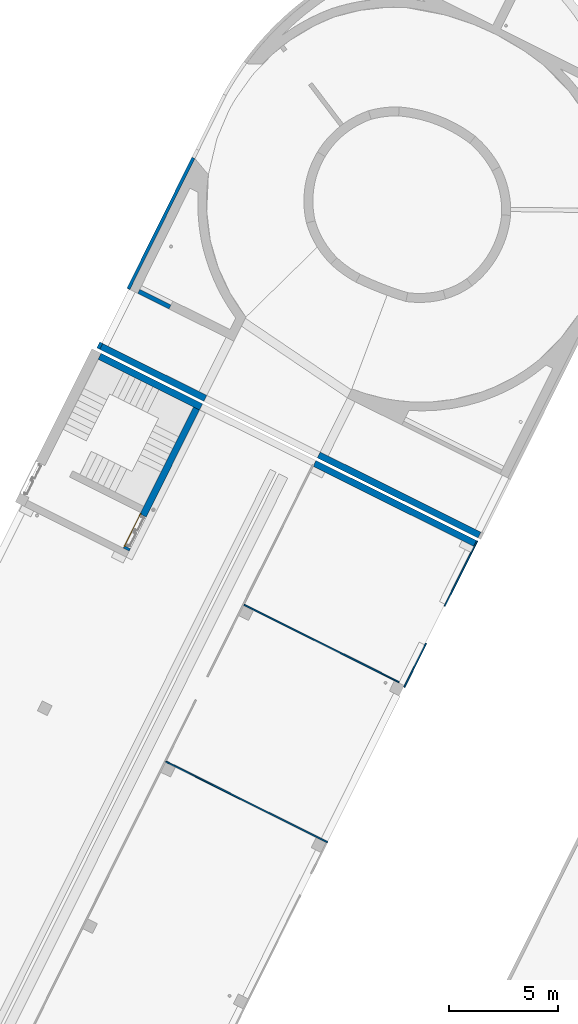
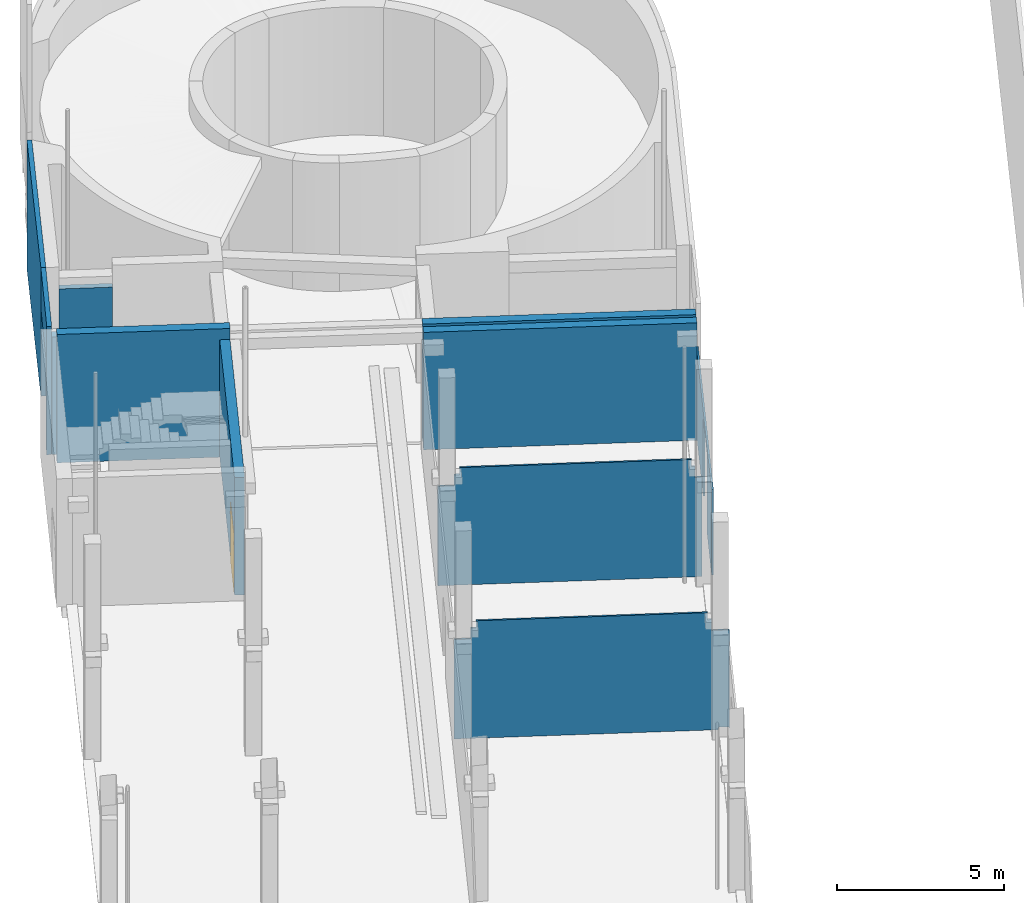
# One storey, part 17 of 91: 11 walls, 1 door, 9 openings.
"""IFC2X3 building model written with IfcOpenShell, lengths in metres."""

import ifcopenshell
import ifcopenshell.guid

model = None  # the IFC model being written
_history = None  # IfcOwnerHistory: only IFC2X3 demands one
_inside = {}  # id of a spatial element -> (the spatial element, [elements in it])
_under = {}  # id of a project, library or spatial element -> (it, [spatial elements below it])
_declared = {}  # id of a project -> (the project, [libraries it declares])
_typed = {}  # id of a type object -> (the type object, [elements of that type])
_made_of = {}  # id of a material, layer set ... -> (it, [elements and type objects made of it])


def new_model(schema):
    """Start an empty IFC model of exactly this schema.

    Asked for "IFC4X3", IfcOpenShell would pick the latest addendum, in which some entities
    have other attributes; the version numbers below select the first issue.
    IFC2X3 requires an IfcOwnerHistory on every rooted entity: one is made here for all.
    """
    global model, _history
    if schema == "IFC4X3":
        model = ifcopenshell.file(schema_version=(4, 3, 0, 0))
    else:
        model = ifcopenshell.file(schema=schema)
    _inside.clear()
    _under.clear()
    _declared.clear()
    _typed.clear()
    _made_of.clear()
    _history = None
    if model.schema == "IFC2X3":
        org = make("IfcOrganization", Name="unknown")
        user = make(
            "IfcPersonAndOrganization",
            ThePerson=make("IfcPerson", FamilyName="unknown"),
            TheOrganization=org,
        )
        app = make(
            "IfcApplication",
            ApplicationDeveloper=org,
            Version="unknown",
            ApplicationFullName="unknown",
            ApplicationIdentifier="unknown",
        )
        _history = make(
            "IfcOwnerHistory",
            OwningUser=user,
            OwningApplication=app,
            ChangeAction="ADDED",
            CreationDate=0,
        )
    return model


def make(cls, **values):
    """One entity of the class cls with the attributes given. An attribute that is None is left unset."""
    return model.create_entity(
        cls, **{name: value for name, value in values.items() if value is not None}
    )


def entity(cls, *values):
    """Any entity or typed value of the class cls, its attributes in the order of the schema. None: left unset."""
    e = model.create_entity(cls)
    for i, value in enumerate(values):
        if value is not None:
            e[i] = value
    return e


def rooted(cls, **values):
    """An entity with a GlobalId (a new one), such as an element, a storey or a relation."""
    return make(cls, GlobalId=ifcopenshell.guid.new(), OwnerHistory=_history, **values)


def si_unit(unit_type, name, prefix=None):
    """IfcSIUnit, for example si_unit("LENGTHUNIT", "METRE", prefix="MILLI")."""
    return make("IfcSIUnit", UnitType=unit_type, Prefix=prefix, Name=name)


def converted_unit(unit_type, name, factor, base, dimensions=None, offset=None):
    """IfcConversionBasedUnit, such as the inch: factor (a typed value) times the base unit."""
    return make(
        "IfcConversionBasedUnit"
        if offset is None
        else "IfcConversionBasedUnitWithOffset",
        ConversionOffset=offset,
        Dimensions=None
        if dimensions is None
        else entity("IfcDimensionalExponents", *dimensions),
        UnitType=unit_type,
        Name=name,
        ConversionFactor=make(
            "IfcMeasureWithUnit", ValueComponent=factor, UnitComponent=base
        ),
    )


def derived_unit(unit_type, elements):
    """IfcDerivedUnit: a product of units, each with its exponent."""
    return make(
        "IfcDerivedUnit",
        Elements=[
            make("IfcDerivedUnitElement", Unit=unit, Exponent=power)
            for unit, power in elements
        ],
        UnitType=unit_type,
    )


def assignment(units):
    """IfcUnitAssignment: the units of a project."""
    return None if units is None else make("IfcUnitAssignment", Units=units)


def point(xyz):
    """IfcCartesianPoint."""
    return None if xyz is None else make("IfcCartesianPoint", Coordinates=xyz)


def direction(xyz):
    """IfcDirection."""
    return None if xyz is None else make("IfcDirection", DirectionRatios=xyz)


def frame(location, z_axis=None, x_axis=None):
    """IfcAxis2Placement3D, a coordinate frame: its origin and axes. An axis left out is left unset."""
    return make(
        "IfcAxis2Placement3D",
        Location=point(location),
        Axis=direction(z_axis),
        RefDirection=direction(x_axis),
    )


def frame_2d(location, x_axis=None):
    """IfcAxis2Placement2D, a coordinate frame in the plane: its origin and x axis."""
    return make(
        "IfcAxis2Placement2D", Location=point(location), RefDirection=direction(x_axis)
    )


def origin():
    """The frame at (0, 0, 0) with its axes left unset."""
    return frame((0.0, 0.0, 0.0))


def origin_2d_with_axis():
    """The frame at (0, 0) in the plane with the x axis (1, 0) written out."""
    return frame_2d((0.0, 0.0), x_axis=(1.0, 0.0))


def place(relative_to, where):
    """IfcLocalPlacement: puts the frame where relative to a parent placement (None: the world)."""
    return make(
        "IfcLocalPlacement", PlacementRelTo=relative_to, RelativePlacement=where
    )


def context(
    kind, dimensions, precision=None, world=None, true_north=None, identifier=None
):
    """IfcGeometricRepresentationContext, for example the 3D "Model" context."""
    return make(
        "IfcGeometricRepresentationContext",
        ContextIdentifier=identifier,
        ContextType=kind,
        CoordinateSpaceDimension=dimensions,
        Precision=precision,
        WorldCoordinateSystem=world,
        TrueNorth=true_north,
    )


def subcontext(parent, identifier, kind, view, scale=None):
    """IfcGeometricRepresentationSubContext, for example "Body" below "Model"."""
    return make(
        "IfcGeometricRepresentationSubContext",
        ContextIdentifier=identifier,
        ContextType=kind,
        ParentContext=parent,
        TargetScale=scale,
        TargetView=view,
    )


def project(units=None, contexts=None):
    """IfcProject with its units and contexts."""
    return rooted(
        "IfcProject",
        Name="project",
        RepresentationContexts=contexts,
        UnitsInContext=assignment(units),
    )


def spatial(cls, under=None, at=None, **own):
    """A site, building, storey or space (cls), placed at a placement, below another one or the project."""
    s = rooted(cls, ObjectPlacement=at, **own)
    if under is not None:
        _under.setdefault(under.id(), (under, []))[1].append(s)
    return s


def polyline(points):
    """IfcPolyline through the points."""
    return make("IfcPolyline", Points=[point(p) for p in points])


def profile(cls, at=None, kind="AREA", **sizes):
    """A parametric profile (cls). Its sizes go by their IFC names, for example OverallWidth=200.0."""
    return make(cls, ProfileType=kind, Position=at, **sizes)


def rectangle(**sizes):
    """IfcRectangleProfileDef."""
    return profile("IfcRectangleProfileDef", **sizes)


def outline(outer, holes=None, kind="AREA"):
    """IfcArbitraryClosedProfileDef: a profile drawn as a closed curve; with holes, ...WithVoids."""
    if holes is None:
        return make("IfcArbitraryClosedProfileDef", ProfileType=kind, OuterCurve=outer)
    return make(
        "IfcArbitraryProfileDefWithVoids",
        ProfileType=kind,
        OuterCurve=outer,
        InnerCurves=holes,
    )


def extrude(swept, where, along, depth):
    """IfcExtrudedAreaSolid: the profile swept, set in the frame where, extruded along a direction by depth."""
    return make(
        "IfcExtrudedAreaSolid",
        SweptArea=swept,
        Position=where,
        ExtrudedDirection=direction(along),
        Depth=depth,
    )


def clip(a, b, op="DIFFERENCE"):
    """IfcBooleanClippingResult: the solid a cut by the half space b."""
    return make(
        "IfcBooleanClippingResult", Operator=op, FirstOperand=a, SecondOperand=b
    )


def halfspace(plane, agree):
    """IfcHalfSpaceSolid: all space on one side of the plane z = 0 of the frame plane."""
    return make(
        "IfcHalfSpaceSolid",
        BaseSurface=make("IfcPlane", Position=plane),
        AgreementFlag=agree,
    )


def bounded_halfspace(plane, agree, where, boundary):
    """IfcPolygonalBoundedHalfSpace: a half space limited to a polygon's prism."""
    return make(
        "IfcPolygonalBoundedHalfSpace",
        BaseSurface=make("IfcPlane", Position=plane),
        AgreementFlag=agree,
        Position=where,
        PolygonalBoundary=boundary,
    )


def faces_of(points, faces, orient=None, outer=None):
    """IfcFace entities. A face is a list of loops; a loop is a list of indices into points, from 0.

    orient and outer hold one flag for each loop. By default every Orientation is true, the
    first loop of a face is its IfcFaceOuterBound and the others are IfcFaceBound.
    """
    made = []
    for i, loops in enumerate(faces):
        bounds = []
        for j, loop in enumerate(loops):
            is_outer = j == 0 if outer is None else outer[i][j]
            bounds.append(
                make(
                    "IfcFaceOuterBound" if is_outer else "IfcFaceBound",
                    Bound=make("IfcPolyLoop", Polygon=[points[k] for k in loop]),
                    Orientation=True if orient is None else orient[i][j],
                )
            )
        made.append(make("IfcFace", Bounds=bounds))
    return made


def faceted_brep(points, faces, orient=None, outer=None, voids=None):
    """IfcFacetedBrep: a solid bounded by flat faces; with voids (closed shells), ...WithVoids."""
    shared = [point(p) for p in points]
    hull = make("IfcClosedShell", CfsFaces=faces_of(shared, faces, orient, outer))
    if voids is None:
        return make("IfcFacetedBrep", Outer=hull)
    return make(
        "IfcFacetedBrepWithVoids",
        Outer=hull,
        Voids=[
            make(cls, CfsFaces=faces_of(shared, fs, o, b)) for cls, fs, o, b in voids
        ],
    )


def shape(context_of_items, identifier, shape_type, items):
    """IfcShapeRepresentation: the items that make up one representation, for example the "Body"."""
    return make(
        "IfcShapeRepresentation",
        ContextOfItems=context_of_items,
        RepresentationIdentifier=identifier,
        RepresentationType=shape_type,
        Items=items,
    )


def source(mapping_origin, context_of_items, identifier, shape_type, items):
    """IfcRepresentationMap: a shape defined once, which mapped items show again and again."""
    return make(
        "IfcRepresentationMap",
        MappingOrigin=mapping_origin,
        MappedRepresentation=shape(context_of_items, identifier, shape_type, items),
    )


def transform(
    local_origin,
    x_axis=None,
    y_axis=None,
    z_axis=None,
    scale=None,
    scale2=None,
    scale3=None,
    uniform=True,
):
    """IfcCartesianTransformationOperator3D, or its non-uniform kind. x_axis, y_axis, z_axis: its Axis1, 2, 3."""
    if uniform:
        return make(
            "IfcCartesianTransformationOperator3D",
            Axis1=direction(x_axis),
            Axis2=direction(y_axis),
            LocalOrigin=point(local_origin),
            Scale=scale,
            Axis3=direction(z_axis),
        )
    return make(
        "IfcCartesianTransformationOperator3DnonUniform",
        Axis1=direction(x_axis),
        Axis2=direction(y_axis),
        LocalOrigin=point(local_origin),
        Scale=scale,
        Axis3=direction(z_axis),
        Scale2=scale2,
        Scale3=scale3,
    )


def mapped(mapping_source, mapping_target):
    """IfcMappedItem: shows the shape of a source again, moved by a transform."""
    return make(
        "IfcMappedItem", MappingSource=mapping_source, MappingTarget=mapping_target
    )


def material(Name=None, Category=None):
    """IfcMaterial."""
    return make("IfcMaterial", Name=Name, Category=Category)


def layer(
    of_material, thickness, ventilated=None, Name=None, Category=None, Priority=None
):
    """IfcMaterialLayer: one layer of a wall or slab, of a material (None: an air gap)."""
    return make(
        "IfcMaterialLayer",
        Material=of_material,
        LayerThickness=thickness,
        IsVentilated=ventilated,
        Name=Name,
        Category=Category,
        Priority=Priority,
    )


def layer_set(layers, Name=None):
    """IfcMaterialLayerSet."""
    return make("IfcMaterialLayerSet", MaterialLayers=layers, LayerSetName=Name)


def layer_usage(for_layer_set, set_direction, sense, offset, extent=None):
    """IfcMaterialLayerSetUsage: how a layer set lies in its element."""
    return make(
        "IfcMaterialLayerSetUsage",
        ForLayerSet=for_layer_set,
        LayerSetDirection=set_direction,
        DirectionSense=sense,
        OffsetFromReferenceLine=offset,
        ReferenceExtent=extent,
    )


def made_of(thing, what):
    """Note that an element or type object is made of a material, layer set ...; save() writes the relation."""
    if what is not None:
        _made_of.setdefault(what.id(), (what, []))[1].append(thing)
    return thing


def type_object(cls, material=None, **own):
    """A type object (cls), such as IfcWallType, which elements share."""
    return made_of(rooted(cls, **own), material)


def type_shapes(of_type, sources):
    """Give a type object the sources (RepresentationMaps) that its elements show as mapped items."""
    of_type.RepresentationMaps = sources


def element(
    cls,
    number,
    at=None,
    inside=None,
    cuts=None,
    type_object=None,
    material=None,
    context=None,
    identifier="Body",
    shape_type=None,
    held_by="IfcProductDefinitionShape",
    body=None,
    shapes=None,
    **own,
):
    """One element of the class cls, such as IfcWall. Its Tag is "e" and its number.

    at: its placement. inside: the storey or other place that contains it. cuts: it is an
    opening in that element (IfcRelVoidsElement). A single representation is given by context,
    identifier, shape_type and body (its items); several are given by shapes. held_by: the class
    of the entity that holds the representations. save() writes the other relations.
    """
    e = rooted(cls, Tag="e%d" % number, ObjectPlacement=at, **own)
    if body is not None:
        shapes = [shape(context, identifier, shape_type, body)]
    if shapes is not None:
        e.Representation = make(held_by, Representations=shapes)
    if inside is not None:
        _inside.setdefault(inside.id(), (inside, []))[1].append(e)
    if cuts is not None:
        rooted(
            "IfcRelVoidsElement", RelatingBuildingElement=cuts, RelatedOpeningElement=e
        )
    if type_object is not None:
        _typed.setdefault(type_object.id(), (type_object, []))[1].append(e)
    return made_of(e, material)


def fill(opening, filler):
    """IfcRelFillsElement: the door or window that sits in an opening."""
    return rooted(
        "IfcRelFillsElement",
        RelatingOpeningElement=opening,
        RelatedBuildingElement=filler,
    )


def aggregate(whole, parts):
    """IfcRelAggregates: a whole, such as a stair, and the parts it consists of."""
    return rooted("IfcRelAggregates", RelatingObject=whole, RelatedObjects=parts)


def save(model, path):
    """Write the relations noted so far, then the file.

    IfcRelAggregates (storeys below a building ...), IfcRelContainedInSpatialStructure (elements
    in a storey), IfcRelDefinesByType, IfcRelAssociatesMaterial and IfcRelDeclares: one each for
    every whole, place, type object, material and project.
    """
    for whole, parts in _under.values():
        aggregate(whole, parts)
    for where, things in _inside.values():
        rooted(
            "IfcRelContainedInSpatialStructure",
            RelatedElements=things,
            RelatingStructure=where,
        )
    for kind, things in _typed.values():
        rooted("IfcRelDefinesByType", RelatedObjects=things, RelatingType=kind)
    for what, things in _made_of.values():
        rooted("IfcRelAssociatesMaterial", RelatedObjects=things, RelatingMaterial=what)
    for by, libraries in _declared.values():
        rooted("IfcRelDeclares", RelatingContext=by, RelatedDefinitions=libraries)
    model.write(path)


model = new_model("IFC2X3")

# Units and contexts
model_context = context("Model", 3, precision=1e-05, world=origin(), true_north=direction((0.894925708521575, 0.446215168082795)))
context_of_model = context(None, 3, precision=1e-05, world=origin(), true_north=direction((0.894925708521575, 0.446215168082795)))
body_context = subcontext(model_context, "Body", "Model", "MODEL_VIEW")
ifc_project = project(units=[si_unit("LENGTHUNIT", "METRE"), si_unit("AREAUNIT", "SQUARE_METRE"), si_unit("VOLUMEUNIT", "CUBIC_METRE"), converted_unit("PLANEANGLEUNIT", "DEGREE", entity("IfcRatioMeasure", 0.0174532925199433), si_unit("PLANEANGLEUNIT", "RADIAN"), dimensions=[0, 0, 0, 0, 0, 0, 0]), si_unit("MASSUNIT", "GRAM", prefix="KILO"), si_unit("TIMEUNIT", "SECOND"), si_unit("FREQUENCYUNIT", "HERTZ"), si_unit("THERMODYNAMICTEMPERATUREUNIT", "DEGREE_CELSIUS"), derived_unit("THERMALTRANSMITTANCEUNIT", [(si_unit("MASSUNIT", "GRAM", prefix="KILO"), 1), (si_unit("THERMODYNAMICTEMPERATUREUNIT", "KELVIN"), -1), (si_unit("TIMEUNIT", "SECOND"), -3)]), derived_unit("VOLUMETRICFLOWRATEUNIT", [(si_unit("LENGTHUNIT", "METRE"), 3), (si_unit("TIMEUNIT", "SECOND"), -1)]), si_unit("ELECTRICCURRENTUNIT", "AMPERE"), si_unit("ELECTRICVOLTAGEUNIT", "VOLT"), si_unit("POWERUNIT", "WATT"), si_unit("FORCEUNIT", "NEWTON", prefix="KILO"), si_unit("ILLUMINANCEUNIT", "LUX"), si_unit("LUMINOUSFLUXUNIT", "LUMEN"), si_unit("LUMINOUSINTENSITYUNIT", "CANDELA"), si_unit("PRESSUREUNIT", "PASCAL")], contexts=[model_context, context_of_model])

# Site, building, storey
site_placement = place(None, frame((218.228324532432, 584.720189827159, 0.0), z_axis=(0.0, 0.0, 1.0), x_axis=(0.446215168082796, 0.894925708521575, 0.0)))
site = spatial("IfcSite", under=ifc_project, at=site_placement, Name="Default", CompositionType="ELEMENT")
building_placement = place(site_placement, origin())
building = spatial("IfcBuilding", under=site, at=building_placement, CompositionType="ELEMENT")
storey_placement = place(building_placement, origin())
storey = spatial("IfcBuildingStorey", under=building, at=storey_placement, Name="0 - Piano Terra", CompositionType="ELEMENT", Elevation=0.0)

# Wall
ifc_material_1 = material(Name="Default - Calcestruzzo")
ifc_layer_1 = layer(ifc_material_1, 0.3)
ifc_material_2 = material(Name="Intonaco - Bianco")
ifc_layer_2 = layer(ifc_material_2, 0.01)
ifc_layer_set_1 = layer_set([ifc_layer_1, ifc_layer_2], Name="Muro di base:Setto CA rivestito int - 31 cm")
ifc_layer_usage_1 = layer_usage(ifc_layer_set_1, "AXIS2", "NEGATIVE", 0.155)
wall_type_1 = type_object("IfcWallType", Name="Muro di base:Setto CA rivestito int - 31 cm", PredefinedType="STANDARD", material=ifc_layer_set_1)
wall_1_placement = place(storey_placement, frame((58.6809369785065, 5.9889210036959, 0.0), z_axis=(0.0, 0.0, 1.0), x_axis=(0.0, -1.0, 0.0)))
element("IfcWallStandardCase", 1, at=wall_1_placement, inside=storey, type_object=wall_type_1, material=ifc_layer_usage_1, Name="Muro di base:Setto CA rivestito int - 31 cm", ObjectType="Muro di base:Setto CA rivestito int - 31 cm", context=body_context, shape_type="Clipping", body=[
    clip(extrude(rectangle(XDim=5.19000000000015, YDim=0.309999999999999, at=frame_2d((2.59500000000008, 0.0), x_axis=(-1.0, 0.0))), origin(), (0.0, 0.0, 1.0), 4.69), bounded_halfspace(frame((0.0, -0.154999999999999, 4.69), z_axis=(0.0, 0.0, -1.0), x_axis=(0.0, 1.0, 0.0)), True, frame((0.0, -0.154999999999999, 4.69)), polyline([(0.0, 0.0), (5.19000000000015, 0.0), (5.19000000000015, 0.309999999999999), (0.0, 0.309999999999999), (0.0, 0.0)]))),
])

# Wall, opening, door
ifc_layer_usage_2 = layer_usage(ifc_layer_set_1, "AXIS2", "NEGATIVE", 0.155)
wall_2_placement = place(storey_placement, frame((58.5259369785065, 0.953921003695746, 0.0), z_axis=(0.0, 0.0, 1.0), x_axis=(-1.0, 0.0, 0.0)))
wall_2 = element("IfcWallStandardCase", 2, at=wall_2_placement, inside=storey, type_object=wall_type_1, material=ifc_layer_usage_2, Name="Muro di base:Setto CA rivestito int - 31 cm", ObjectType="Muro di base:Setto CA rivestito int - 31 cm", context=body_context, shape_type="SweptSolid", body=[
    extrude(rectangle(XDim=7.20999999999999, YDim=0.31, at=frame_2d((3.605, 0.0), x_axis=(-1.0, 0.0))), origin(), (0.0, 0.0, 1.0), 4.29),
])
opening_1_placement = place(wall_2_placement, frame((7.1299999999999, 0.455000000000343, 0.0), z_axis=(0.0, 0.0, 1.0), x_axis=(-1.0, 0.0, 0.0)))
opening_1 = element("IfcOpeningElement", 3, at=opening_1_placement, cuts=wall_2, Name="Muro di base:Setto CA rivestito int - 31 cm", ObjectType="Opening", context=body_context, shape_type="Brep", body=[
    faceted_brep([(1.65999999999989, 0.0, 2.11000000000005), (1.65999999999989, 0.560000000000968, 2.11000000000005), (0.0399999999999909, 0.560000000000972, 2.11000000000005), (0.0399999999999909, 0.0, 2.11000000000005), (1.65999999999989, 0.91000000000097, 0.0), (1.65999999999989, 0.610000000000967, 0.0), (1.69999999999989, 0.610000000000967, 0.0), (1.69999999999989, 0.560000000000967, 0.0), (1.65999999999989, 0.560000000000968, 0.0), (1.65999999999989, 0.0, 0.0), (0.0399999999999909, 0.0, 0.0), (0.0399999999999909, 0.560000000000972, 0.0), (0.0, 0.560000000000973, 0.0), (0.0, 0.610000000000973, 0.0), (0.0399999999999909, 0.610000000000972, 0.0), (0.0399999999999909, 0.91000000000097, 0.0), (1.65999999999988, 0.91000000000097, 2.11000000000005), (0.0399999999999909, 0.91000000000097, 2.11000000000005), (1.65999999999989, 0.610000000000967, 2.11000000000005), (0.0, 0.610000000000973, 2.15000000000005), (1.69999999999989, 0.610000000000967, 2.15000000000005), (0.0399999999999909, 0.610000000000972, 2.11000000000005), (1.69999999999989, 0.560000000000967, 2.15000000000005), (0.0, 0.560000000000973, 2.15000000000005)], [[[0, 1, 2, 3]], [[4, 5, 6, 7, 8, 9, 10, 11, 12, 13, 14, 15]], [[16, 4, 15, 17]], [[3, 2, 11, 10]], [[3, 10, 9, 0]], [[16, 18, 5, 4]], [[13, 19, 20, 6, 5, 18, 21, 14]], [[11, 2, 1, 8, 7, 22, 23, 12]], [[12, 23, 19, 13]], [[19, 23, 22, 20]], [[20, 22, 7, 6]], [[9, 8, 1, 0]], [[15, 14, 21, 17]], [[17, 21, 18, 16]]]),
])
ifc_material_3 = material(Name="Alluminio")
door_style = type_object("IfcDoorStyle", Name="180x210", ConstructionType="NOTDEFINED", OperationType="DOUBLE_DOOR_SINGLE_SWING", ParameterTakesPrecedence=False, Sizeable=False, material=ifc_material_3)
shared_shape = source(origin(), body_context, "Body", "Brep", [
    faceted_brep([(0.0499999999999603, 0.620000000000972, 0.0), (0.0499999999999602, 0.580000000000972, 0.0), (0.0649999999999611, 0.580000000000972, 0.0), (0.0649999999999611, 0.560000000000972, 0.0), (0.0, 0.560000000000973, 0.0), (0.0, 0.620000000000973, 0.0), (0.0499999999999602, 0.620000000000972, 2.10000000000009), (0.0499999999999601, 0.580000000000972, 2.10000000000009), (1.64999999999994, 0.580000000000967, 2.10000000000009), (1.64999999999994, 0.580000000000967, 0.0), (1.63499999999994, 0.580000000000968, 0.0), (1.63499999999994, 0.580000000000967, 2.08500000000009), (0.0649999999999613, 0.580000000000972, 2.08500000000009), (0.0649999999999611, 0.560000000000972, 2.08500000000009), (1.63499999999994, 0.560000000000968, 2.08500000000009), (1.63499999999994, 0.560000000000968, 0.0), (1.6999999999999, 0.560000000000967, 0.0), (1.6999999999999, 0.560000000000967, 2.15000000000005), (0.0, 0.560000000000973, 2.15000000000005), (0.0, 0.620000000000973, 2.15000000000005), (1.6999999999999, 0.620000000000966, 2.15000000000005), (1.6999999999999, 0.620000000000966, 0.0), (1.64999999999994, 0.620000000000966, 0.0), (1.64999999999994, 0.620000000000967, 2.10000000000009)], [[[0, 1, 2, 3, 4, 5]], [[1, 0, 6, 7]], [[2, 1, 7, 8, 9, 10, 11, 12]], [[3, 2, 12, 13]], [[4, 3, 13, 14, 15, 16, 17, 18]], [[5, 4, 18, 19]], [[0, 5, 19, 20, 21, 22, 23, 6]], [[8, 23, 22, 9]], [[22, 21, 16, 15, 10, 9]], [[14, 11, 10, 15]], [[20, 17, 16, 21]], [[7, 6, 23, 8]], [[13, 12, 11, 14]], [[19, 18, 17, 20]]]),
    faceted_brep([(0.849999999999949, 0.62000000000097, 2.1), (0.84999999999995, 0.62000000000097, 0.0), (0.0499999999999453, 0.620000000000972, 0.0), (0.0499999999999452, 0.620000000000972, 2.1), (0.849999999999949, 0.58000000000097, 2.1), (0.049999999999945, 0.580000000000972, 2.1), (0.0499999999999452, 0.580000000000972, 0.0), (0.849999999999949, 0.58000000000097, 0.0)], [[[0, 1, 2, 3]], [[4, 5, 6, 7]], [[1, 0, 4, 7]], [[2, 1, 7, 6]], [[3, 2, 6, 5]], [[0, 3, 5, 4]]]),
    faceted_brep([(1.64999999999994, 0.620000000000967, 0.0), (0.84999999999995, 0.62000000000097, 0.0), (0.849999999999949, 0.62000000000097, 2.1), (1.64999999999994, 0.620000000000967, 2.1), (1.64999999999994, 0.580000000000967, 0.0), (1.64999999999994, 0.580000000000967, 2.1), (0.849999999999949, 0.58000000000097, 2.1), (0.849999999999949, 0.58000000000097, 0.0)], [[[0, 1, 2, 3]], [[4, 5, 6, 7]], [[1, 0, 4, 7]], [[2, 1, 7, 6]], [[3, 2, 6, 5]], [[0, 3, 5, 4]]]),
    faceted_brep([(0.864999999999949, 0.622999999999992, 2.1), (0.834999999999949, 0.622999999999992, 2.1), (0.834999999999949, 0.619999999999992, 2.1), (0.864999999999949, 0.619999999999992, 2.1), (0.864999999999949, 0.622999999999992, 0.0), (0.864999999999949, 0.619999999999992, 0.0), (0.834999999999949, 0.619999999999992, 0.0), (0.834999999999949, 0.622999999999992, 0.0)], [[[0, 1, 2, 3]], [[4, 5, 6, 7]], [[1, 0, 4, 7]], [[2, 1, 7, 6]], [[3, 2, 6, 5]], [[0, 3, 5, 4]]]),
    faceted_brep([(1.6599999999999, 0.630000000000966, 1.85000000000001), (1.64999999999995, 0.630000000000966, 1.85000000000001), (1.63499999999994, 0.619999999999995, 1.85000000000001), (1.6599999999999, 0.619999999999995, 1.85000000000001), (1.6599999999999, 0.630000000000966, 1.80000000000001), (1.64999999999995, 0.630000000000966, 1.80000000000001), (1.63499999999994, 0.619999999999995, 1.80000000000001), (1.6599999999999, 0.619999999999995, 1.80000000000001)], [[[0, 1, 2, 3]], [[1, 0, 4, 5]], [[2, 1, 5, 6]], [[3, 2, 6, 7]], [[0, 3, 7, 4]], [[4, 7, 6, 5]]]),
    faceted_brep([(0.0399999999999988, 0.630000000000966, 1.80000000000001), (0.0499999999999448, 0.630000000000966, 1.80000000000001), (0.0649999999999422, 0.620000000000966, 1.80000000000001), (0.0399999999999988, 0.620000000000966, 1.80000000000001), (0.0399999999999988, 0.620000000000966, 1.85000000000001), (0.0399999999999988, 0.630000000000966, 1.85000000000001), (0.0649999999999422, 0.620000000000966, 1.85000000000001), (0.0499999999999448, 0.630000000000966, 1.85000000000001)], [[[0, 1, 2, 3]], [[4, 5, 0, 3]], [[6, 4, 3, 2]], [[7, 6, 2, 1]], [[5, 7, 1, 0]], [[5, 4, 6, 7]]]),
    faceted_brep([(1.6599999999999, 0.630000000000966, 1.80000000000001), (1.64999999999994, 0.630000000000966, 1.80000000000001), (1.64999999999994, 0.620000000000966, 1.80000000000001), (1.6599999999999, 0.620000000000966, 1.80000000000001), (1.6599999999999, 0.630000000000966, 1.75000000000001), (1.64999999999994, 0.630000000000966, 1.75000000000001), (1.64999999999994, 0.620000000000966, 1.75000000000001), (1.6599999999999, 0.620000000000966, 1.75000000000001)], [[[0, 1, 2, 3]], [[1, 0, 4, 5]], [[2, 1, 5, 6]], [[3, 2, 6, 7]], [[0, 3, 7, 4]], [[4, 7, 6, 5]]]),
    faceted_brep([(0.0499999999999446, 0.630000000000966, 1.75000000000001), (0.0499999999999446, 0.620000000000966, 1.75000000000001), (0.04, 0.620000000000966, 1.75000000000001), (0.04, 0.630000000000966, 1.75000000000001), (0.04, 0.630000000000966, 1.80000000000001), (0.0499999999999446, 0.630000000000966, 1.80000000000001), (0.04, 0.620000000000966, 1.80000000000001), (0.0499999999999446, 0.620000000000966, 1.80000000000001)], [[[0, 1, 2, 3]], [[4, 5, 0, 3]], [[6, 4, 3, 2]], [[7, 6, 2, 1]], [[5, 7, 1, 0]], [[5, 4, 6, 7]]]),
    faceted_brep([(0.0399999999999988, 0.620000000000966, 0.349999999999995), (0.0649999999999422, 0.620000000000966, 0.349999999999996), (0.0499999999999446, 0.630000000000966, 0.349999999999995), (0.0399999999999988, 0.630000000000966, 0.349999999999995), (0.0399999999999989, 0.620000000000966, 0.299999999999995), (0.0649999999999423, 0.620000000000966, 0.299999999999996), (0.0499999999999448, 0.630000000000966, 0.299999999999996), (0.0399999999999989, 0.630000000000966, 0.299999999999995)], [[[0, 1, 2, 3]], [[1, 0, 4, 5]], [[2, 1, 5, 6]], [[3, 2, 6, 7]], [[0, 3, 7, 4]], [[4, 7, 6, 5]]]),
    faceted_brep([(1.6599999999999, 0.630000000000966, 0.300000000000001), (1.6599999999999, 0.619999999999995, 0.300000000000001), (1.63499999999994, 0.619999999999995, 0.300000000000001), (1.64999999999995, 0.630000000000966, 0.300000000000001), (1.64999999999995, 0.630000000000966, 0.350000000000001), (1.6599999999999, 0.630000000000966, 0.350000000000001), (1.63499999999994, 0.619999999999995, 0.350000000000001), (1.6599999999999, 0.619999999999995, 0.350000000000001)], [[[0, 1, 2, 3]], [[4, 5, 0, 3]], [[6, 4, 3, 2]], [[7, 6, 2, 1]], [[5, 7, 1, 0]], [[5, 4, 6, 7]]]),
    faceted_brep([(1.64999999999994, 0.630000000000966, 0.300000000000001), (1.64999999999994, 0.620000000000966, 0.300000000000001), (1.6599999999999, 0.620000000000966, 0.300000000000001), (1.6599999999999, 0.630000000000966, 0.300000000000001), (1.64999999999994, 0.630000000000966, 0.250000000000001), (1.64999999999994, 0.620000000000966, 0.250000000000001), (1.6599999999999, 0.620000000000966, 0.250000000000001), (1.6599999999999, 0.630000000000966, 0.250000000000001)], [[[0, 1, 2, 3]], [[1, 0, 4, 5]], [[2, 1, 5, 6]], [[3, 2, 6, 7]], [[0, 3, 7, 4]], [[4, 7, 6, 5]]]),
    faceted_brep([(0.049999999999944, 0.630000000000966, 0.249999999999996), (0.049999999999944, 0.620000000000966, 0.249999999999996), (0.039999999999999, 0.620000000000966, 0.249999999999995), (0.039999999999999, 0.630000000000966, 0.249999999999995), (0.0399999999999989, 0.630000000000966, 0.299999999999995), (0.0499999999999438, 0.630000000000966, 0.299999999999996), (0.0399999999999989, 0.620000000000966, 0.299999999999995), (0.0499999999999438, 0.620000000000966, 0.299999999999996)], [[[0, 1, 2, 3]], [[4, 5, 0, 3]], [[6, 4, 3, 2]], [[7, 6, 2, 1]], [[5, 7, 1, 0]], [[5, 4, 6, 7]]]),
])
type_shapes(door_style, [shared_shape])
door_placement = place(storey_placement, frame((51.3959369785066, 0.498921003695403, 0.0)))
door = element("IfcDoor", 4, at=door_placement, inside=storey, type_object=door_style, material=ifc_material_3, Name="120-180x210 Uscita di sicurezza doppia:180x210", ObjectType="180x210", OverallHeight=2.15000000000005, OverallWidth=1.6999999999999, context=body_context, shape_type="MappedRepresentation", body=[
    mapped(shared_shape, transform((0.0, 0.0, 0.0), scale=1.0)),
])
fill(opening_1, door)

# Wall
ifc_material_4 = material(Name="Sabbia e Calcestruzzo")
ifc_layer_3 = layer(ifc_material_4, 0.2)
ifc_layer_set_2 = layer_set([ifc_layer_3], Name="Muro di base:Blocchetti - 20 cm")
ifc_layer_usage_3 = layer_usage(ifc_layer_set_2, "AXIS2", "POSITIVE", -0.1)
wall_type_2 = type_object("IfcWallType", Name="Muro di base:Blocchetti - 20 cm", PredefinedType="STANDARD", material=ifc_layer_set_2)
wall_3_placement = place(storey_placement, frame((62.135936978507, 4.10717448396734, 0.0), z_axis=(0.0, 0.0, 1.0), x_axis=(0.0, 1.0, 0.0)))
element("IfcWallStandardCase", 5, at=wall_3_placement, inside=storey, type_object=wall_type_2, material=ifc_layer_usage_3, Name="Muro di base:Blocchetti - 20 cm", ObjectType="Muro di base:Blocchetti - 20 cm", context=body_context, shape_type="Clipping", body=[
    clip(extrude(rectangle(XDim=1.6, YDim=0.200000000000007, at=frame_2d((0.800000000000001, 0.0), x_axis=(-1.0, 0.0))), origin(), (0.0, 0.0, 1.0), 4.13), bounded_halfspace(frame((0.0, -0.0999999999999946, 3.89), z_axis=(0.0, 0.0, -1.0), x_axis=(0.0, 1.0, 0.0)), True, frame((0.0, -0.0999999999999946, 3.89), z_axis=(0.0, 0.0, -1.0), x_axis=(0.0, 1.0, 0.0)), polyline([(0.0, 0.0), (0.199999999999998, 0.0), (0.200000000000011, 1.6), (0.0, 1.6), (0.0, 0.0)]))),
])

# Wall, openings
ifc_layer_4 = layer(ifc_material_3, 0.01)
ifc_material_5 = material(Name="Plastica")
ifc_layer_5 = layer(ifc_material_5, 0.04)
ifc_layer_6 = layer(ifc_material_3, 0.01)
ifc_layer_set_3 = layer_set([ifc_layer_4, ifc_layer_5, ifc_layer_6], Name="Muro di base:Pannello coibentato - 6 cm")
ifc_layer_usage_4 = layer_usage(ifc_layer_set_3, "AXIS2", "NEGATIVE", 0.03)
wall_type_3 = type_object("IfcWallType", Name="Muro di base:Pannello coibentato - 6 cm", PredefinedType="STANDARD", material=ifc_layer_set_3)
wall_4_placement = place(storey_placement, frame((51.4583430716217, -12.9210789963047, 0.0), z_axis=(0.0, 0.0, 1.0), x_axis=(0.0, 1.0, 0.0)))
wall_4 = element("IfcWallStandardCase", 6, at=wall_4_placement, inside=storey, type_object=wall_type_3, material=ifc_layer_usage_4, Name="Muro di base:Pannello coibentato - 6 cm", ObjectType="Muro di base:Pannello coibentato - 6 cm", context=body_context, shape_type="Clipping", body=[
    clip(clip(clip(extrude(rectangle(XDim=7.925, YDim=0.0600000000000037, at=frame_2d((3.9625, 0.0), x_axis=(-1.0, 0.0))), origin(), (0.0, 0.0, 1.0), 4.29), bounded_halfspace(frame((0.320000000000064, -0.0300000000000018, 4.29), z_axis=(0.0, 0.0, -1.0), x_axis=(1.0, 0.0, 0.0)), True, frame((0.320000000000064, -0.0300000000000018, 4.29)), polyline([(0.0, 0.0), (6.94999999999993, 0.0), (6.94999999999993, 0.0600000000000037), (0.0, 0.0600000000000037), (0.0, 0.0)]))), halfspace(frame((0.320000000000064, 0.0, 4.29), z_axis=(-0.899814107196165, 0.0, 0.436273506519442), x_axis=(0.0, 1.0, 0.0)), False)), halfspace(frame((7.955, 0.0, 3.63), z_axis=(0.693843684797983, 0.0, 0.72012564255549), x_axis=(0.0, 1.0, 0.0)), False)),
])
opening_2_placement = place(wall_4_placement, origin())
element("IfcOpeningElement", 7, at=opening_2_placement, cuts=wall_4, Name="Muro di base:Pannello coibentato - 6 cm", ObjectType="Opening", context=body_context, shape_type="SweptSolid", body=[
    extrude(outline(polyline([(-0.549702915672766, -0.124155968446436), (0.401519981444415, -0.124155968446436), (0.221120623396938, 0.0630766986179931), (0.102299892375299, -0.0514075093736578), (-0.175237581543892, 0.236642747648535), (-0.549702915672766, -0.124155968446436)])), frame((7.47299999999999, 0.0299999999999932, 3.922), z_axis=(0.0, -1.0, 0.0), x_axis=(-0.72012564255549, 0.0, 0.693843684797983)), (0.0, 0.0, 1.0), 0.06),
])
opening_3_placement = place(wall_4_placement, origin())
element("IfcOpeningElement", 8, at=opening_3_placement, cuts=wall_4, Name="Muro di base:Pannello coibentato - 6 cm", ObjectType="Opening", context=body_context, shape_type="SweptSolid", body=[
    extrude(outline(polyline([(-0.379121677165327, -0.0615690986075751), (0.354363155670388, -0.0615690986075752), (0.264927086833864, 0.12289279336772), (-0.0949985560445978, -0.0516166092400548), (-0.145170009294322, 0.0518620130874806), (-0.379121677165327, -0.0615690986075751)])), frame((0.210000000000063, 0.0299999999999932, 3.922), z_axis=(0.0, -1.0, 0.0), x_axis=(-0.436273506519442, 0.0, -0.899814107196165)), (0.0, 0.0, 1.0), 0.06),
])

# Wall, opening
ifc_layer_usage_5 = layer_usage(ifc_layer_set_3, "AXIS2", "NEGATIVE", 0.03)
wall_5_placement = place(storey_placement, frame((58.8359369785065, -13.2310789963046, 0.09), z_axis=(0.0, 0.0, 1.0), x_axis=(-1.0, 0.0, 0.0)))
wall_5 = element("IfcWallStandardCase", 9, at=wall_5_placement, inside=storey, type_object=wall_type_3, material=ifc_layer_usage_5, Name="Muro di base:Pannello coibentato - 6 cm", ObjectType="Muro di base:Pannello coibentato - 6 cm", context=body_context, shape_type="Clipping", body=[
    clip(extrude(rectangle(XDim=7.48, YDim=0.0599999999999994, at=frame_2d((3.74, 1.59594559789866e-16), x_axis=(-1.0, 0.0))), origin(), (0.0, 0.0, 1.0), 3.13), bounded_halfspace(frame((0.0, -0.0299999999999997, 3.13), z_axis=(0.0, 0.0, -1.0), x_axis=(0.0, -1.0, 0.0)), True, frame((0.0, -0.0299999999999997, 3.13)), polyline([(0.0, 0.0), (7.48, 0.0), (7.48, 0.0599999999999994), (0.0, 0.0599999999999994), (0.0, 0.0)]))),
])
opening_4_placement = place(wall_5_placement, frame((5.24000000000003, 1.55400000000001, -0.09)))
element("IfcOpeningElement", 10, at=opening_4_placement, cuts=wall_5, Name="Muro di base:Pannello coibentato - 6 cm", ObjectType="Opening", context=body_context, shape_type="SweptSolid", body=[
    extrude(rectangle(XDim=2.95, YDim=1.9, at=origin_2d_with_axis()), frame((-0.949999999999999, -3.04800000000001, 1.475), z_axis=(0.0, 1.0, 0.0), x_axis=(0.0, 0.0, -1.0)), (0.0, 0.0, 1.0), 3.048),
])

# Wall, openings
ifc_layer_usage_6 = layer_usage(ifc_layer_set_3, "AXIS2", "NEGATIVE", 0.03)
wall_6_placement = place(storey_placement, frame((43.4496023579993, -4.99607899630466, 0.0), z_axis=(0.0, 0.0, 1.0), x_axis=(0.0, -1.0, 0.0)))
wall_6 = element("IfcWallStandardCase", 11, at=wall_6_placement, inside=storey, type_object=wall_type_3, material=ifc_layer_usage_6, Name="Muro di base:Pannello coibentato - 6 cm", ObjectType="Muro di base:Pannello coibentato - 6 cm", context=body_context, shape_type="Clipping", body=[
    clip(clip(clip(clip(extrude(rectangle(XDim=8.26499999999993, YDim=0.0600000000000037, at=frame_2d((4.13249999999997, 0.0), x_axis=(-1.0, 0.0))), origin(), (0.0, 0.0, 1.0), 4.29), bounded_halfspace(frame((0.654999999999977, -0.0300000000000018, 4.29), z_axis=(0.0, 0.0, -1.0), x_axis=(-1.0, 0.0, 0.0)), True, frame((0.654999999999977, -0.0300000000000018, 4.29)), polyline([(0.0, 0.0), (6.94999999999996, 0.0), (6.94999999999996, 0.0600000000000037), (0.0, 0.0600000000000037), (0.0, 0.0)]))), bounded_halfspace(frame((8.25499999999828, 0.0300000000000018, 0.09), z_axis=(0.0, 0.0, 1.0), x_axis=(0.0, 1.0, 0.0)), True, frame((8.25499999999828, 0.0300000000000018, 0.09), z_axis=(0.0, 0.0, 1.0), x_axis=(0.0, 1.0, 0.0)), polyline([(0.0, 0.0), (0.0, 0.329999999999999), (-0.0599999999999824, 0.329999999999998), (-0.0600000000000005, 0.0499999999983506), (-0.0599999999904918, 0.0), (0.0, 0.0)]))), halfspace(frame((0.654999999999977, 0.0, 4.29), z_axis=(-0.693843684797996, 0.0, 0.720125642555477), x_axis=(0.0, 1.0, 0.0)), False)), halfspace(frame((8.23499999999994, 0.0, 3.63), z_axis=(0.723355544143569, 0.0, 0.690475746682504), x_axis=(0.0, 1.0, 0.0)), False)),
])
opening_5_placement = place(wall_6_placement, origin())
element("IfcOpeningElement", 12, at=opening_5_placement, cuts=wall_6, Name="Muro di base:Pannello coibentato - 6 cm", ObjectType="Opening", context=body_context, shape_type="SweptSolid", body=[
    extrude(outline(polyline([(-0.527457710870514, -0.129677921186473), (0.384956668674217, -0.129677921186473), (0.196884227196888, 0.0498457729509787), (0.117479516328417, -0.0333401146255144), (-0.171862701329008, 0.242850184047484), (-0.527457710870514, -0.129677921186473)])), frame((7.77699999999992, 0.0300000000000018, 3.922), z_axis=(0.0, -1.0, 0.0), x_axis=(-0.690475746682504, 0.0, 0.723355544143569)), (0.0, 0.0, 1.0), 0.06),
])
opening_6_placement = place(wall_6_placement, origin())
element("IfcOpeningElement", 13, at=opening_6_placement, cuts=wall_6, Name="Muro di base:Pannello coibentato - 6 cm", ObjectType="Opening", context=body_context, shape_type="SweptSolid", body=[
    extrude(outline(polyline([(-0.401519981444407, -0.124155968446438), (0.549702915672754, -0.124155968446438), (0.175237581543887, 0.236642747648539), (-0.102299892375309, -0.051407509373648), (-0.221120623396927, 0.0630766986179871), (-0.401519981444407, -0.124155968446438)])), frame((0.452, 0.0300000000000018, 3.922), z_axis=(0.0, -1.0, 0.0), x_axis=(-0.720125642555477, 0.0, -0.693843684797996)), (0.0, 0.0, 1.0), 0.06),
])

ifc_layer_7 = layer(ifc_material_3, 0.15)
ifc_layer_set_4 = layer_set([ifc_layer_7], Name="Muro di base:Rivestimento 15 cm")
ifc_layer_usage_7 = layer_usage(ifc_layer_set_4, "AXIS2", "NEGATIVE", 0.075)
wall_type_4 = type_object("IfcWallType", Name="Muro di base:Rivestimento 15 cm", PredefinedType="STANDARD", material=ifc_layer_set_4)
wall_7_placement = place(storey_placement, frame((58.9662239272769, 6.19392045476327, 0.0), z_axis=(0.0, 0.0, 1.0), x_axis=(0.999992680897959, -0.00382598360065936, 0.0)))
wall_7 = element("IfcWallStandardCase", 14, at=wall_7_placement, inside=storey, type_object=wall_type_4, material=ifc_layer_usage_7, Name="Muro di base:Rivestimento 15 cm", ObjectType="Muro di base:Rivestimento 15 cm", context=body_context, shape_type="SweptSolid", body=[
    extrude(outline(polyline([(0.0, -0.0749999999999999), (3.07002246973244, -0.075), (3.06959885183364, 0.0750000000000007), (0.0, 0.0749999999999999), (0.0, -0.0749999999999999)])), origin(), (0.0, 0.0, 1.0), 4.69),
])
opening_7_placement = place(wall_7_placement, frame((0.136846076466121, -0.0856270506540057, -0.0574853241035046)))
element("IfcOpeningElement", 15, at=opening_7_placement, cuts=wall_7, Name="Muro di base:Rivestimento 15 cm", ObjectType="Opening", context=body_context, shape_type="SweptSolid", body=[
    extrude(rectangle(XDim=0.0574853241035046, YDim=2.77761996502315, at=frame_2d((0.0, 4.32986979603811e-15), x_axis=(1.0, 0.0))), frame((1.38876932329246, 0.0106270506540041, 0.0287426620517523), z_axis=(0.0, 1.0, 0.0), x_axis=(0.0, 0.0, -1.0)), (0.0, 0.0, 1.0), 0.149999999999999),
])
opening_8_placement = place(wall_7_placement, frame((0.310040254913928, -0.0855213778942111, 0.0)))
element("IfcOpeningElement", 16, at=opening_8_placement, cuts=wall_7, Name="Muro di base:Rivestimento 15 cm", ObjectType="Opening", context=body_context, shape_type="SweptSolid", body=[
    extrude(rectangle(XDim=0.0899999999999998, YDim=2.75, at=origin_2d_with_axis()), frame((1.37495974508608, 0.0105213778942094, 0.0449999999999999), z_axis=(0.0, 1.0, 0.0), x_axis=(0.0, 0.0, -1.0)), (0.0, 0.0, 1.0), 0.149999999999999),
])
opening_9_placement = place(wall_7_placement, frame((0.310040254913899, -1.60952137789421, 0.0900000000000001)))
element("IfcOpeningElement", 17, at=opening_9_placement, cuts=wall_7, Name="Muro di base:Rivestimento 15 cm", ObjectType="Opening", context=body_context, shape_type="SweptSolid", body=[
    extrude(rectangle(XDim=3.13, YDim=2.74999999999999, at=frame_2d((0.0, 0.0), x_axis=(0.0, 1.0))), frame((1.37495974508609, 0.0105213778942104, 1.565), z_axis=(0.0, 1.0, 0.0), x_axis=(1.0, 0.0, 0.0)), (0.0, 0.0, 1.0), 3.048),
])

# Walls
ifc_layer_usage_8 = layer_usage(ifc_layer_set_4, "AXIS2", "NEGATIVE", 0.075)
wall_8_placement = place(storey_placement, frame((62.0358003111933, 6.18217502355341, 0.0), z_axis=(0.0, 0.0, 1.0), x_axis=(0.999998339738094, 0.00182222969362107, 0.0)))
element("IfcWallStandardCase", 18, at=wall_8_placement, inside=storey, type_object=wall_type_4, material=ifc_layer_usage_8, Name="Muro di base:Rivestimento 15 cm", ObjectType="Muro di base:Rivestimento 15 cm", context=body_context, shape_type="SweptSolid", body=[
    extrude(outline(polyline([(6.67832109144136, -0.0750000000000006), (6.67832109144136, 0.0749999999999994), (0.000423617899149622, 0.0749999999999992), (0.0, -0.0750000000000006), (6.67832109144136, -0.0750000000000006)])), origin(), (0.0, 0.0, 1.0), 4.69),
])
ifc_material_6 = material(Name="Calcestruzzo")
wall_type_5 = type_object("IfcWallType", Name="Setti C.a.3:Setti C.a.", PredefinedType="NOTDEFINED", material=ifc_material_6)
wall_9_placement = place(storey_placement, frame((58.9659369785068, 0.798921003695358, 0.0), z_axis=(0.0, 0.0, 1.0), x_axis=(0.0, 1.0, 0.0)))
element("IfcWall", 19, at=wall_9_placement, inside=storey, type_object=wall_type_5, material=ifc_material_6, Name="Setti C.a.3:Setti C.a.", ObjectType="Setti C.a.3:Setti C.a.", context=body_context, shape_type="SweptSolid", body=[
    extrude(rectangle(XDim=5.3181219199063, YDim=0.300000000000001, at=origin_2d_with_axis()), frame((2.65906095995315, -0.150000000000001, 0.0)), (0.0, 0.0, 1.0), 4.29),
])
wall_type_6 = type_object("IfcWallType", Name="Setto C.a.4:Setto C.a.", PredefinedType="NOTDEFINED", material=ifc_material_1)
wall_10_placement = place(storey_placement, frame((58.5359369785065, -13.2010789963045, 0.0), z_axis=(0.0, 0.0, 1.0), x_axis=(0.0, 1.0, 0.0)))
element("IfcWall", 20, at=wall_10_placement, inside=storey, type_object=wall_type_6, material=ifc_material_1, Name="Setto C.a.4:Setto C.a.", ObjectType="Setto C.a.4:Setto C.a.", context=body_context, shape_type="SweptSolid", body=[
    extrude(rectangle(XDim=0.300000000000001, YDim=8.19999999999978, at=frame_2d((0.0, -1.33226762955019e-15), x_axis=(1.0, 0.0))), frame((4.09999999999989, -0.150000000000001, 0.0), z_axis=(0.0, 0.0, 1.0), x_axis=(0.0, 1.0, 0.0)), (0.0, 0.0, 1.0), 4.29),
])
wall_type_7 = type_object("IfcWallType", Name="Setto C.a.5:Setto C.a.", PredefinedType="NOTDEFINED", material=ifc_material_1)
wall_11_placement = place(storey_placement, frame((58.9659369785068, -13.2010789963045, 0.0), z_axis=(0.0, 0.0, 1.0), x_axis=(0.0, 1.0, 0.0)))
element("IfcWall", 21, at=wall_11_placement, inside=storey, type_object=wall_type_7, material=ifc_material_1, Name="Setto C.a.5:Setto C.a.", ObjectType="Setto C.a.5:Setto C.a.", context=body_context, shape_type="SweptSolid", body=[
    extrude(rectangle(XDim=0.300000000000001, YDim=8.19999999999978, at=frame_2d((0.0, -1.33226762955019e-15), x_axis=(1.0, 0.0))), frame((4.09999999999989, -0.150000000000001, 0.0), z_axis=(0.0, 0.0, 1.0), x_axis=(0.0, 1.0, 0.0)), (0.0, 0.0, 1.0), 4.29),
])

save(model, "model.ifc")
